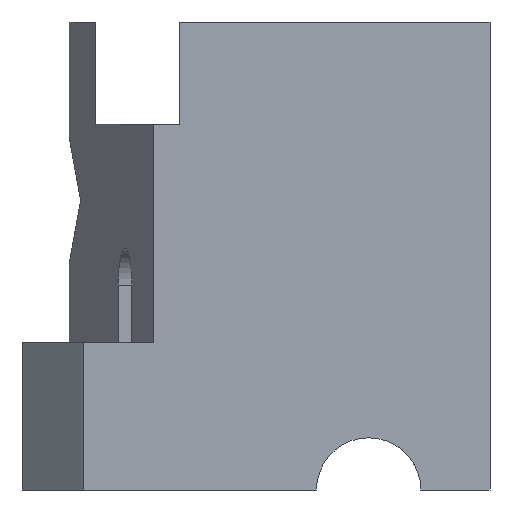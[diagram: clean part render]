
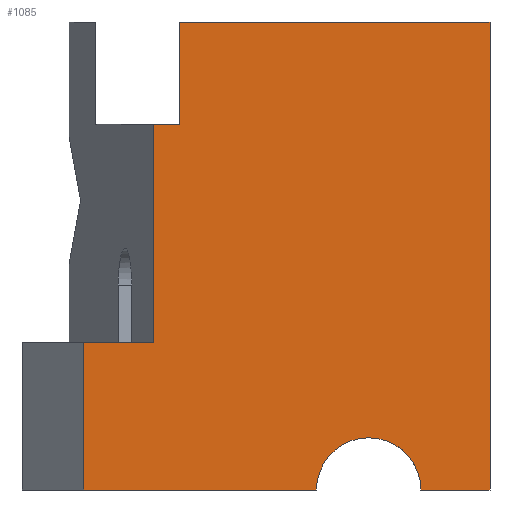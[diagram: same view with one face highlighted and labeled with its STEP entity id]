
A CAD part, front view. The second image highlights one B-rep face of the part: STEP entity #1085.
In plain terms, the highlighted planar face has unit normal (0, -1, 0).
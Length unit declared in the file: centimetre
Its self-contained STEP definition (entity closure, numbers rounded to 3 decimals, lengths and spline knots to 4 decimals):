
#6 = LINE ( 'NONE', #950, #681 ) ;
#17 = VERTEX_POINT ( 'NONE', #328 ) ;
#19 = ORIENTED_EDGE ( 'NONE', *, *, #212, .F. ) ;
#24 = LINE ( 'NONE', #508, #1214 ) ;
#44 = FACE_OUTER_BOUND ( 'NONE', #863, .T. ) ;
#56 = CARTESIAN_POINT ( 'NONE',  ( 131.4951, 0., 1000. ) ) ;
#61 = VECTOR ( 'NONE', #380, 100. ) ;
#91 = EDGE_CURVE ( 'NONE', #307, #325, #603, .T. ) ;
#99 = LINE ( 'NONE', #1047, #873 ) ;
#127 = PLANE ( 'NONE',  #236 ) ;
#142 = ORIENTED_EDGE ( 'NONE', *, *, #867, .T. ) ;
#151 = DIRECTION ( 'NONE',  ( 1., 0., 0. ) ) ;
#179 = CARTESIAN_POINT ( 'NONE',  ( 337.1254, 0., 781.8279 ) ) ;
#207 = DIRECTION ( 'NONE',  ( 0., 0., -1. ) ) ;
#212 = EDGE_CURVE ( 'NONE', #325, #1062, #250, .T. ) ;
#214 = ORIENTED_EDGE ( 'NONE', *, *, #733, .F. ) ;
#221 = CARTESIAN_POINT ( 'NONE',  ( 629.1712, 0., 0. ) ) ;
#234 = EDGE_CURVE ( 'NONE', #1110, #1072, #1025, .T. ) ;
#236 = AXIS2_PLACEMENT_3D ( 'NONE', #1078, #606, #693 ) ;
#246 = EDGE_CURVE ( 'NONE', #970, #490, #353, .T. ) ;
#250 = LINE ( 'NONE', #1221, #300 ) ;
#251 = LINE ( 'NONE', #56, #619 ) ;
#260 = ORIENTED_EDGE ( 'NONE', *, *, #91, .F. ) ;
#275 = DIRECTION ( 'NONE',  ( 0., 0., -1. ) ) ;
#283 = DIRECTION ( 'NONE',  ( 0., -1., 0. ) ) ;
#295 = ORIENTED_EDGE ( 'NONE', *, *, #347, .F. ) ;
#300 = VECTOR ( 'NONE', #842, 100. ) ;
#307 = VERTEX_POINT ( 'NONE', #1040 ) ;
#325 = VERTEX_POINT ( 'NONE', #478 ) ;
#328 = CARTESIAN_POINT ( 'NONE',  ( 852.4478, 0., 0. ) ) ;
#333 = CARTESIAN_POINT ( 'NONE',  ( 280.7289, 0., 314.368 ) ) ;
#345 = CIRCLE ( 'NONE', #384, 111.6383 ) ;
#347 = EDGE_CURVE ( 'NONE', #1062, #569, #99, .T. ) ;
#350 = ORIENTED_EDGE ( 'NONE', *, *, #246, .F. ) ;
#353 = LINE ( 'NONE', #730, #582 ) ;
#380 = DIRECTION ( 'NONE',  ( 0., 0., 1. ) ) ;
#384 = AXIS2_PLACEMENT_3D ( 'NONE', #758, #283, #275 ) ;
#409 = DIRECTION ( 'NONE',  ( 1., 0., 0. ) ) ;
#459 = DIRECTION ( 'NONE',  ( 0., 0., -1. ) ) ;
#478 = CARTESIAN_POINT ( 'NONE',  ( 280.7289, 0., 314.368 ) ) ;
#481 = VERTEX_POINT ( 'NONE', #704 ) ;
#483 = VECTOR ( 'NONE', #630, 100. ) ;
#489 = CARTESIAN_POINT ( 'NONE',  ( 337.1254, 0., 781.8279 ) ) ;
#490 = VERTEX_POINT ( 'NONE', #528 ) ;
#508 = CARTESIAN_POINT ( 'NONE',  ( 0., 0., 0. ) ) ;
#523 = VECTOR ( 'NONE', #151, 100. ) ;
#528 = CARTESIAN_POINT ( 'NONE',  ( 1000., 0., 1000. ) ) ;
#541 = EDGE_CURVE ( 'NONE', #307, #1110, #251, .T. ) ;
#569 = VERTEX_POINT ( 'NONE', #179 ) ;
#582 = VECTOR ( 'NONE', #1108, 100. ) ;
#587 = LINE ( 'NONE', #489, #61 ) ;
#588 = ORIENTED_EDGE ( 'NONE', *, *, #802, .F. ) ;
#603 = LINE ( 'NONE', #333, #523 ) ;
#606 = DIRECTION ( 'NONE',  ( 0., 1., 0. ) ) ;
#619 = VECTOR ( 'NONE', #459, 100. ) ;
#630 = DIRECTION ( 'NONE',  ( 1., 0., 0. ) ) ;
#668 = DIRECTION ( 'NONE',  ( 1., 0., 0. ) ) ;
#681 = VECTOR ( 'NONE', #207, 100. ) ;
#693 = DIRECTION ( 'NONE',  ( 0., 0., 1. ) ) ;
#704 = CARTESIAN_POINT ( 'NONE',  ( 1000., 0., 0. ) ) ;
#730 = CARTESIAN_POINT ( 'NONE',  ( 0., 0., 1000. ) ) ;
#733 = EDGE_CURVE ( 'NONE', #490, #481, #6, .T. ) ;
#758 = CARTESIAN_POINT ( 'NONE',  ( 740.8095, 0., 0. ) ) ;
#802 = EDGE_CURVE ( 'NONE', #569, #970, #587, .T. ) ;
#840 = CARTESIAN_POINT ( 'NONE',  ( 337.1254, 0., 1000. ) ) ;
#842 = DIRECTION ( 'NONE',  ( 0., 0., 1. ) ) ;
#863 = EDGE_LOOP ( 'NONE', ( #350, #588, #295, #19, #260, #912, #945, #923, #142, #214 ) ) ;
#867 = EDGE_CURVE ( 'NONE', #17, #481, #24, .T. ) ;
#873 = VECTOR ( 'NONE', #668, 100. ) ;
#884 = CARTESIAN_POINT ( 'NONE',  ( 280.7289, 0., 781.8279 ) ) ;
#912 = ORIENTED_EDGE ( 'NONE', *, *, #541, .T. ) ;
#923 = ORIENTED_EDGE ( 'NONE', *, *, #977, .F. ) ;
#945 = ORIENTED_EDGE ( 'NONE', *, *, #234, .T. ) ;
#950 = CARTESIAN_POINT ( 'NONE',  ( 1000., 0., 1000. ) ) ;
#970 = VERTEX_POINT ( 'NONE', #840 ) ;
#977 = EDGE_CURVE ( 'NONE', #17, #1072, #345, .T. ) ;
#1025 = LINE ( 'NONE', #1202, #483 ) ;
#1040 = CARTESIAN_POINT ( 'NONE',  ( 131.4951, 0., 314.368 ) ) ;
#1047 = CARTESIAN_POINT ( 'NONE',  ( 158.1033, 0., 781.8279 ) ) ;
#1062 = VERTEX_POINT ( 'NONE', #884 ) ;
#1072 = VERTEX_POINT ( 'NONE', #221 ) ;
#1078 = CARTESIAN_POINT ( 'NONE',  ( 0., 0., 1000. ) ) ;
#1084 = CARTESIAN_POINT ( 'NONE',  ( 131.4951, 0., 0. ) ) ;
#1085 = ADVANCED_FACE ( 'NONE', ( #44 ), #127, .F. ) ;
#1108 = DIRECTION ( 'NONE',  ( 1., 0., 0. ) ) ;
#1110 = VERTEX_POINT ( 'NONE', #1084 ) ;
#1202 = CARTESIAN_POINT ( 'NONE',  ( 0., 0., 0. ) ) ;
#1214 = VECTOR ( 'NONE', #409, 100. ) ;
#1221 = CARTESIAN_POINT ( 'NONE',  ( 280.7289, 0., 314.368 ) ) ;
